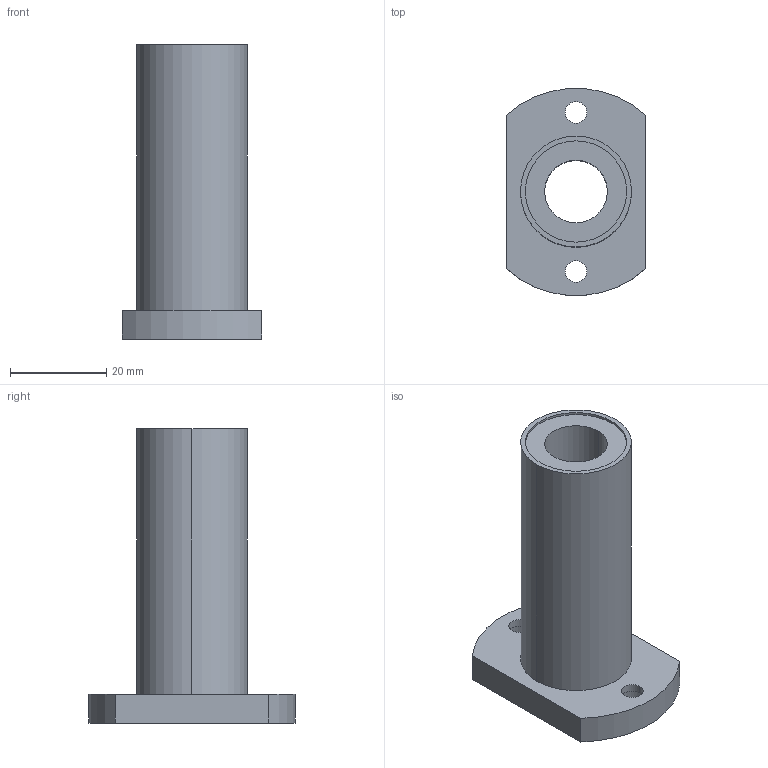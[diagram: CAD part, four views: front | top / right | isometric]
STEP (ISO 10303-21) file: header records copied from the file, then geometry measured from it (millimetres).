
FILE_DESCRIPTION((''),'2;1');
FILE_NAME('C:\Documents and Settings\ｿﾀﾀ蠑ｷ1\ｹﾙﾅﾁ ﾈｭｸ饅\ｺﾎﾇｰﾆﾄﾀﾏ\ﾁｦﾇｰ\LMH__LUU\LMH13LUU.stp','2005-06-15T10:43:42',('ｿﾀﾀ蠑ｷ1'),(''),'Autodesk Inventor 9','Autodesk Inventor 9','');
FILE_SCHEMA(('AUTOMOTIVE_DESIGN { 1 0 10303 214 1 1 1 1 }'));
Length unit declared in the file: millimetre
Products named in the file (1): LMH__
Bounding box: 29 x 42.85 x 61 mm (x, y, z)
Volume: 20774.2 mm3; surface area: 9495.8 mm2
Topology: 1 solids, 1 shells, 30 faces, 66 edges, 44 vertices
Faces by surface type: cylinder 12, bspline 10, plane 8
Entity records: 989 total; most frequent: CARTESIAN_POINT 283, DIRECTION 148, ORIENTED_EDGE 132, EDGE_CURVE 66, AXIS2_PLACEMENT_3D 61, VERTEX_POINT 44, EDGE_LOOP 42, CIRCLE 40
